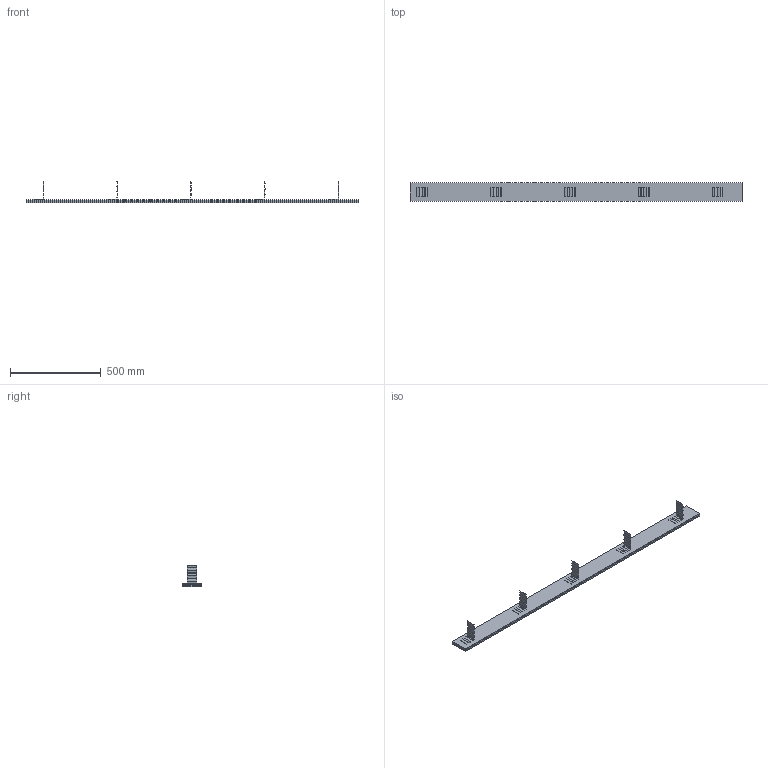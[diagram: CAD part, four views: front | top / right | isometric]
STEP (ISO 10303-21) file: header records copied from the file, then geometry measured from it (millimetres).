
FILE_DESCRIPTION(/* description */ (''),/* implementation_level */ '2;1');
FILE_NAME(/* name */ 'C:\001_Work\Designs\SWW\SWW 4 x 72.stp',/* time_stamp */ '2015-08-12T14:37:50-04:00',/* author */ ('rramoutar'),/* organization */ (''),/* preprocessor_version */ 'ST-DEVELOPER v15.6',/* originating_system */ 'Autodesk Inventor 2015',/* authorisation */ '');
FILE_SCHEMA (('AUTOMOTIVE_DESIGN { 1 0 10303 214 3 1 1 }'));
Length unit declared in the file: inch
Products named in the file (4): SWW 4 x 72 SHEET METAL (A-14177-1); SWW 4 x 72 WAFFLE PAD (A-14177-1); SWW 8 x 72 BRICK TIES (A-14177-1); SWW 4  x 72 WALL ISOLATOR (A-14177-1)
Assembly tree (8 placements, depth 2):
  SWW 4  x 72 WALL ISOLATOR (A-14177-1)
    SWW 4 x 72 SHEET METAL (A-14177-1)
    SWW 4 x 72 WAFFLE PAD (A-14177-1)  x2
    SWW 8 x 72 BRICK TIES (A-14177-1)  x5
Bounding box: 1828.8 x 101.6 x 121.11 mm (x, y, z)
Volume: 3291216.3 mm3; surface area: 1267035.7 mm2
Topology: 8 solids, 8 shells, 448 faces, 896 edges, 464 vertices
Faces by surface type: plane 348, cylinder 100
Entity records: 2555 total; most frequent: DIRECTION 456, CARTESIAN_POINT 410, ORIENTED_EDGE 392, EDGE_CURVE 196, LINE 156, VECTOR 156, AXIS2_PLACEMENT_3D 150, VERTEX_POINT 104
